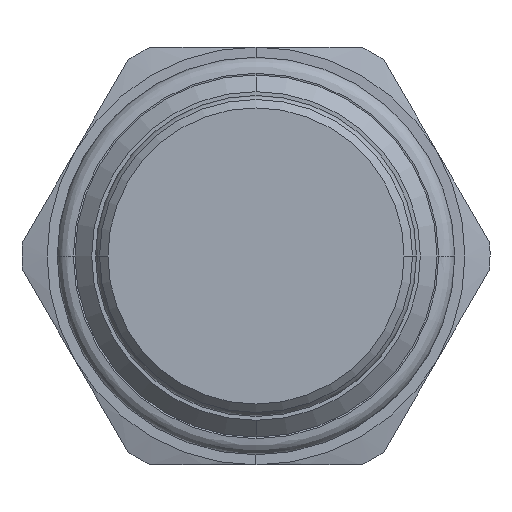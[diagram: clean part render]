
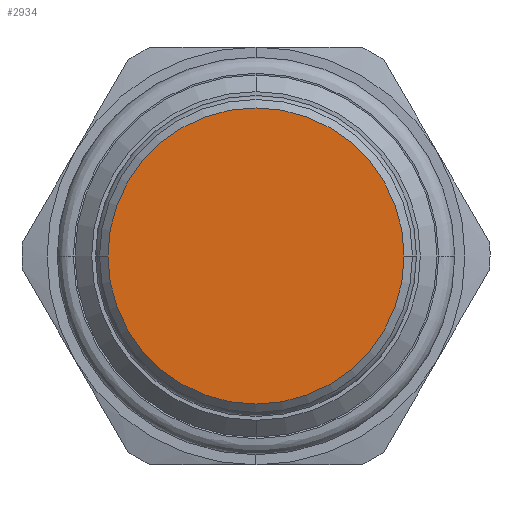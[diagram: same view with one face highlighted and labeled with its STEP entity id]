
A CAD part, front view. The second image highlights one B-rep face of the part: STEP entity #2934.
In plain terms, the highlighted planar face has unit normal (0, -1, 0).
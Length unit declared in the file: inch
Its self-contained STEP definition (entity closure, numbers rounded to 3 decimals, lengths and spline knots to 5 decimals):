
#999=CARTESIAN_POINT('',(0.,-1.74943,0.));
#1000=DIRECTION('',(0.,1.,0.));
#1001=DIRECTION('',(-1.,0.,0.));
#1002=AXIS2_PLACEMENT_3D('',#999,#1000,#1001);
#1004=CARTESIAN_POINT('',(0.,-1.74943,0.));
#1005=DIRECTION('',(0.,1.,0.));
#1006=DIRECTION('',(1.,0.,0.));
#1007=AXIS2_PLACEMENT_3D('',#1004,#1005,#1006);
#1353=CARTESIAN_POINT('',(-0.5315,-1.74943,0.));
#1354=CARTESIAN_POINT('',(0.5315,-1.74943,0.));
#1355=VERTEX_POINT('',#1353);
#1356=VERTEX_POINT('',#1354);
#2924=CARTESIAN_POINT('',(0.,-1.74943,0.));
#2925=DIRECTION('',(0.,-1.,0.));
#2926=DIRECTION('',(-1.,0.,0.));
#2927=AXIS2_PLACEMENT_3D('',#2924,#2925,#2926);
#2928=PLANE('',#2927);
#2929=ORIENTED_EDGE('',*,*,#2914,.T.);
#2931=ORIENTED_EDGE('',*,*,#2930,.T.);
#2932=EDGE_LOOP('',(#2929,#2931));
#2933=FACE_OUTER_BOUND('',#2932,.F.);
#2934=ADVANCED_FACE('',(#2933),#2928,.T.);
#1003=CIRCLE('',#1002,0.5315);
#1008=CIRCLE('',#1007,0.5315);
#2914=EDGE_CURVE('',#1355,#1356,#1003,.T.);
#2930=EDGE_CURVE('',#1356,#1355,#1008,.T.);
